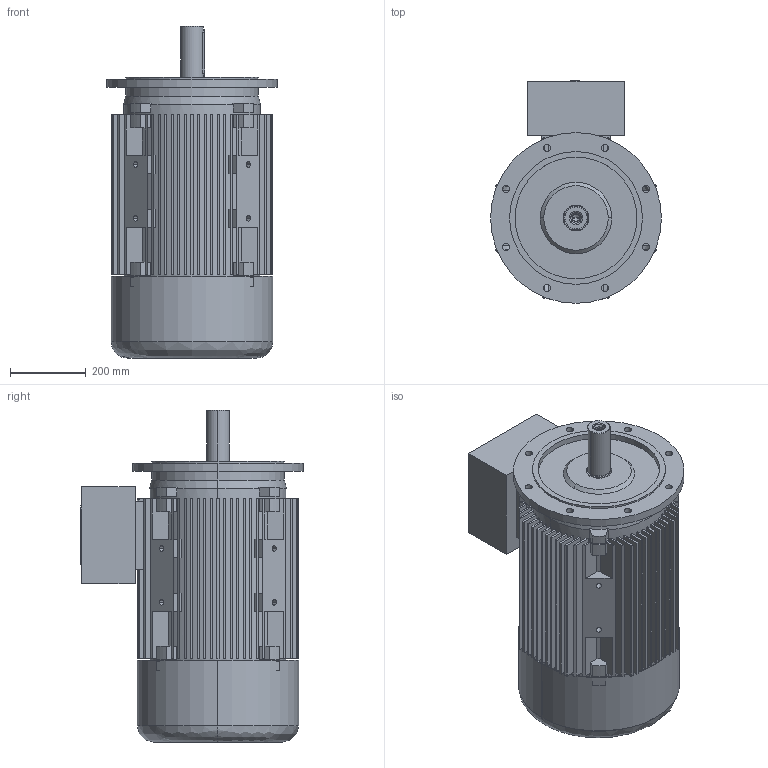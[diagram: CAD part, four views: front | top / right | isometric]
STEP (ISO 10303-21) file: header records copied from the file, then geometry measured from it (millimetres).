
FILE_DESCRIPTION (( 'STEP AP203' ), '1' );
FILE_NAME ('20.18426_B 7AT 225S&M -4, -6, -8 B5 STANDK.STEP', '2018-04-24T12:12:09', ( '' ), ( '' ), 'SwSTEP 2.0', 'SolidWorks 2017', '' );
FILE_SCHEMA (( 'CONFIG_CONTROL_DESIGN' ));
Length unit declared in the file: millimetre
Products named in the file (1): 20.18426_B 7AT 225S&M -4, -6, -8 B5 STANDK
Bounding box: 450 x 587 x 875 mm (x, y, z)
Volume: 35633532.4 mm3; surface area: 5136162.6 mm2
Topology: 5 solids, 5 shells, 803 faces, 2155 edges, 1415 vertices
Faces by surface type: plane 622, cylinder 130, cone 38, bspline 13
Entity records: 25683 total; most frequent: CARTESIAN_POINT 5193, ORIENTED_EDGE 4274, DIRECTION 4191, EDGE_CURVE 2137, VECTOR 1581, LINE 1581, VERTEX_POINT 1415, AXIS2_PLACEMENT_3D 1305
